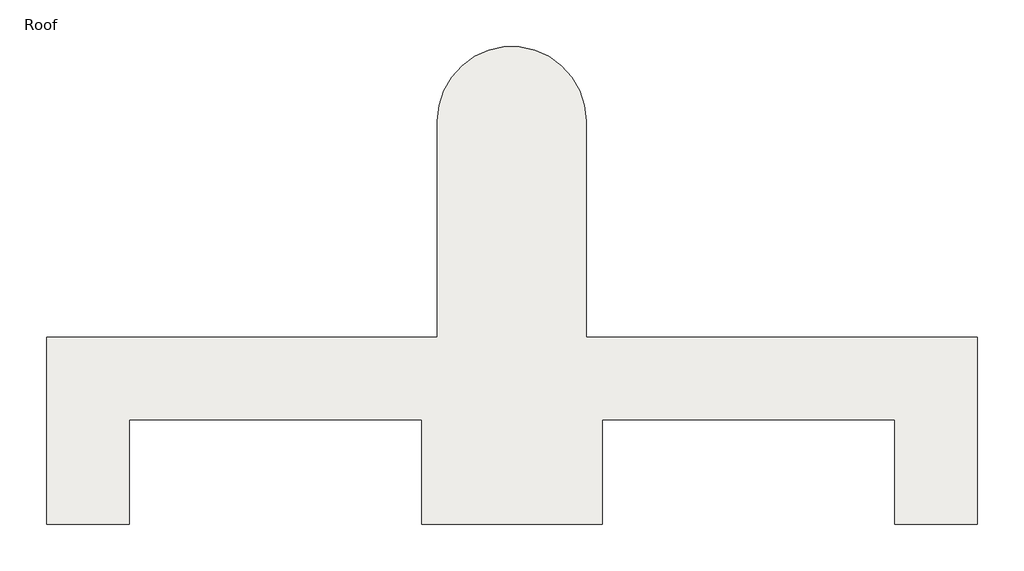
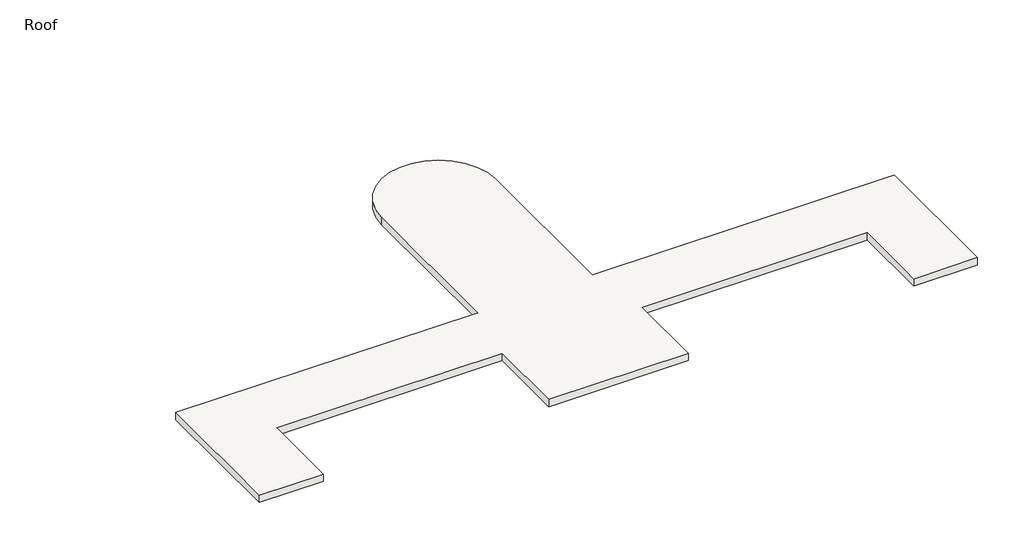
# One storey: 1 roof.
"""IFC4 building model written with IfcOpenShell, lengths in millimetres."""

from ifc_helpers import new_model, si_unit, point, frame, frame_2d, origin, place, context, project, spatial, polyline, circle_curve, trimmed, segment, composite_curve, outline, extrude, element, save

model = new_model("IFC4")

# Units and contexts
model_context = context("Model", 3, world=origin())
ifc_project = project(units=[si_unit("LENGTHUNIT", "METRE", prefix="MILLI")], contexts=[model_context])

# Site, building, storey
site = spatial("IfcSite", under=ifc_project)
building = spatial("IfcBuilding", under=site)
storey = spatial("IfcBuildingStorey", under=building, Name="Roof", Elevation=12192.0)

# Roof
placement = place(None, origin())
element("IfcRoof", 1, ObjectType="Generic - 9\"", at=placement, inside=storey, context=model_context, shape_type="SweptSolid", body=[
    extrude(outline(composite_curve([segment(polyline([(-17118.4024687, 167.7883812), (-17118.4024687, 4539.7633812), (-7987.1024687, 4539.7633812), (-7987.1024687, 9592.7758812)]), True, "CONTINUOUS"), segment(trimmed(circle_curve(frame_2d((-6251.9649687, 9592.7758812)), 1735.1375), [point((-7987.1024687, 9592.7758812))], [point((-4516.8274687, 9592.7758812))], False, "CARTESIAN"), True, "CONTINUOUS"), segment(polyline([(-4516.8274687, 9592.7758812), (-4516.8274687, 4539.7633812), (4627.1725313, 4539.7633812), (4627.1725313, 167.7883812), (2693.5975313, 167.7883812), (2693.5975313, 2606.1883812), (-4135.8274687, 2606.1883812), (-4135.8274687, 167.7883812), (-8355.4024687, 167.7883812), (-8355.4024687, 2606.1883812), (-15184.8274687, 2606.1883812), (-15184.8274687, 167.7883812), (-17118.4024687, 167.7883812)]), True, "CONTINUOUS")], self_intersect=False)), frame((0.0, 0.0, 12192.0), z_axis=(0.0, 0.0, 1.0), x_axis=(1.0, 0.0, 0.0)), (0.0, 0.0, 1.0), 228.6),
])

save(model, "model.ifc")
